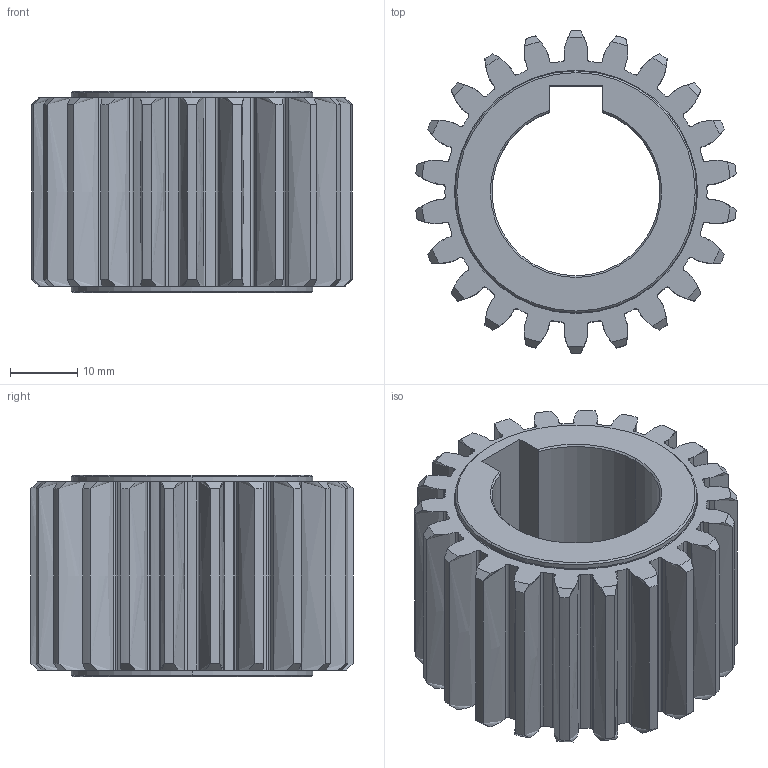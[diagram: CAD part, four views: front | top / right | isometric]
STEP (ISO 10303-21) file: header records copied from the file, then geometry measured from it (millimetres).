
FILE_DESCRIPTION (( 'STEP AP214' ), '1' );
FILE_NAME ('1SG__S020022S.STEP', '2021-08-03T07:27:23', ( '' ), ( '' ), 'SwSTEP 2.0', 'SolidWorks 2021', '' );
FILE_SCHEMA (( 'AUTOMOTIVE_DESIGN' ));
Length unit declared in the file: millimetre
Products named in the file (1): 1SG__S020022S
Bounding box: 47.69 x 48 x 30 mm (x, y, z)
Volume: 28121.6 mm3; surface area: 12510.5 mm2
Topology: 1 solids, 1 shells, 238 faces, 730 edges, 496 vertices
Faces by surface type: cylinder 85, bspline 66, cone 54, plane 29, torus 4
Entity records: 13678 total; most frequent: CARTESIAN_POINT 7373, ORIENTED_EDGE 1460, DIRECTION 1168, EDGE_CURVE 730, VERTEX_POINT 496, AXIS2_PLACEMENT_3D 445, VECTOR 278, LINE 278
